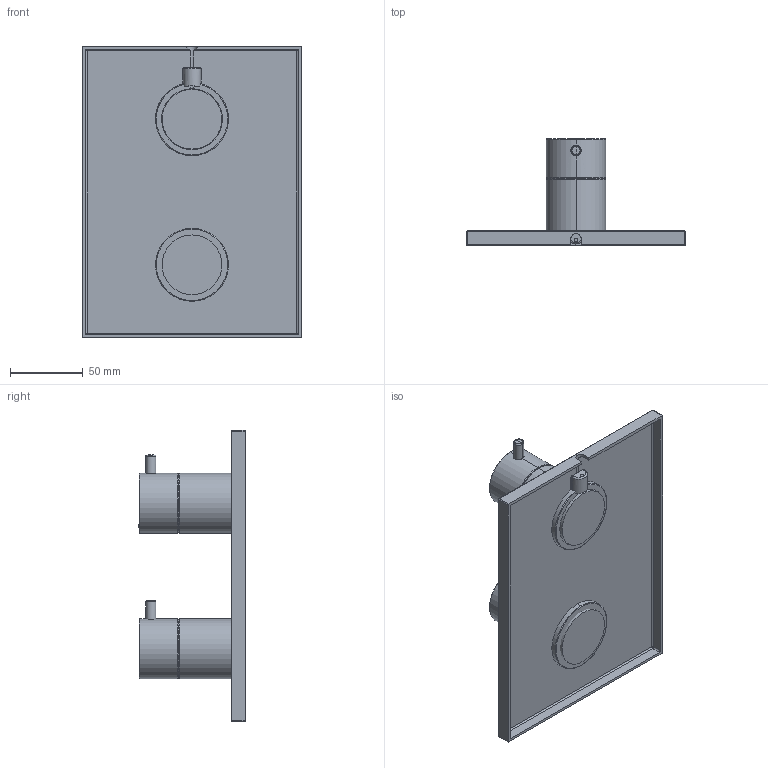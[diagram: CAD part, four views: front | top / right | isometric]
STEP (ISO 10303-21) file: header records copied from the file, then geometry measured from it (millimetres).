
FILE_DESCRIPTION((''),'2;1');
FILE_NAME('76705--','2026-10-06T09:40:08',('simi1'),(''),'CREO PARAMETRIC BY PTC INC, 2022244','CREO PARAMETRIC BY PTC INC, 2022244','');
FILE_SCHEMA(('CONFIG_CONTROL_DESIGN'));
Length unit declared in the file: millimetre
Products named in the file (1): 76705--
Bounding box: 150 x 72.8 x 200 mm (x, y, z)
Surface area: 100303.8 mm2 (no closed solid volume)
Topology: 0 solids, 24 shells, 114 faces, 462 edges, 360 vertices
Faces by surface type: cylinder 45, plane 39, torus 18, sphere 12
Entity records: 5113 total; most frequent: CARTESIAN_POINT 1388, DIRECTION 762, ORIENTED_EDGE 670, EDGE_CURVE 458, VERTEX_POINT 360, AXIS2_PLACEMENT_3D 255, VECTOR 252, LINE 252
